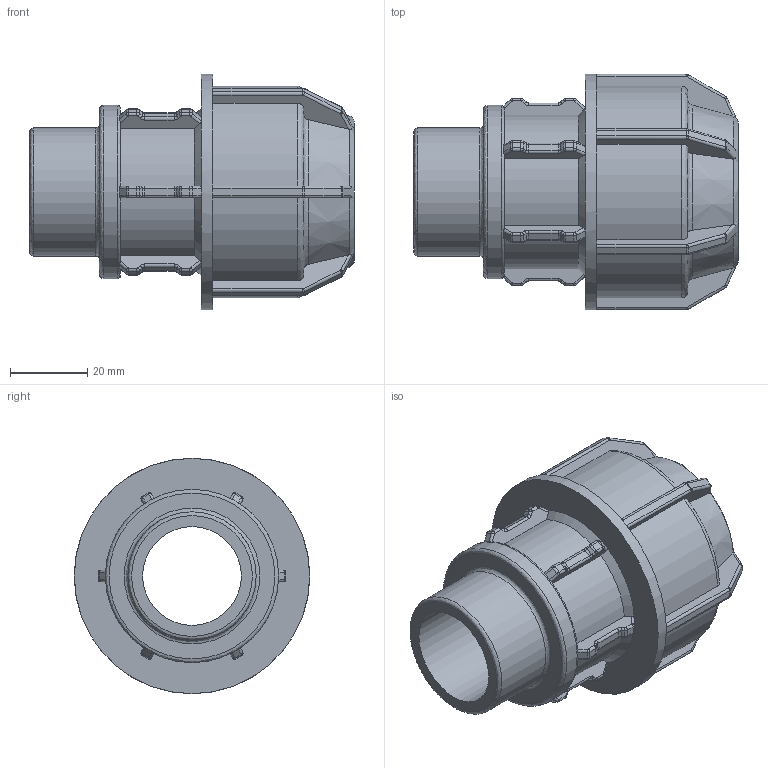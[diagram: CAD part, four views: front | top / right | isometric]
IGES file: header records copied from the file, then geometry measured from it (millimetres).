
Global section: file name: 140200032010.ipt; native system: Autodesk Inventor 2015; preprocessor: unknown; author: KIM; date: 20180409.130934; units: millimetre
Bounding box: 84 x 61 x 61 mm (x, y, z)
Volume: 76327.4 mm3; surface area: 26639.4 mm2
Topology: 1 solids, 1 shells, 469 faces, 1174 edges, 703 vertices
Faces by surface type: cylinder 171, plane 157, revolution 129, cone 12
Full cylindrical faces by diameter (mm): 33.249 x1, 44.886 x1, 61 x1
